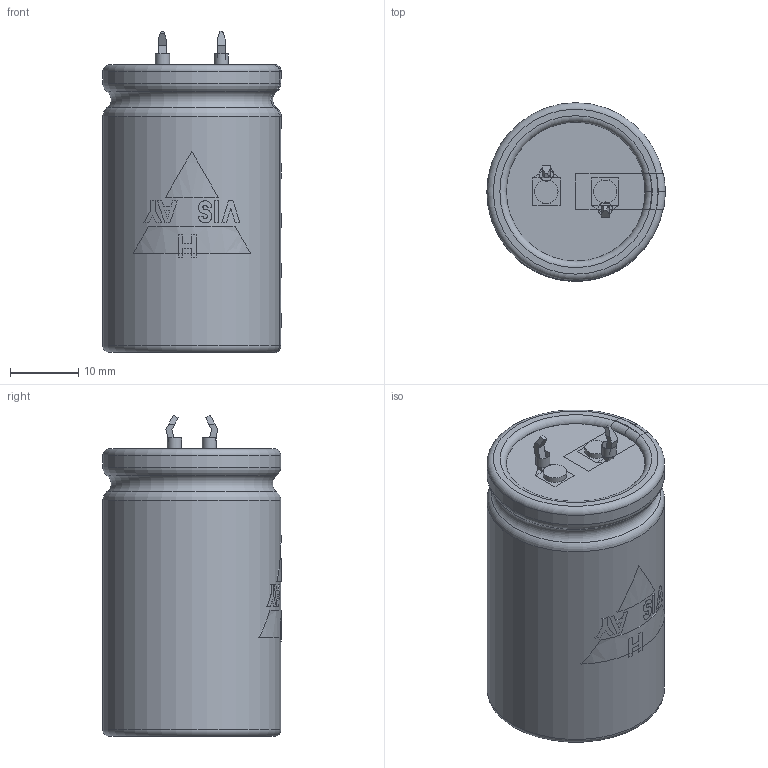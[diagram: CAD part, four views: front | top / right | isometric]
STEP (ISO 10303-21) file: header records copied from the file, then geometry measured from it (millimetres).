
FILE_DESCRIPTION(('FreeCAD Model'),'2;1');
FILE_NAME( 'C:/Users/Gebruiker/Documents/FreeCAD/SnapIn_25x40_2pin_4.0.step', '2020-11-12T20:08:10',('Author'),(''), 'Open CASCADE STEP processor 6.8','FreeCAD','Unknown');
FILE_SCHEMA(('AUTOMOTIVE_DESIGN_CC2 { 1 2 10303 214 -1 1 5 4 }'));
Length unit declared in the file: millimetre
Products named in the file (9): ASSEMBLY; TerminalMin; TerminalPlus; PCBHoles; Disc; BottomInsulation; Can3D; InkMinusBar; InkLogo
Assembly tree (8 placements, depth 2):
  ASSEMBLY
    TerminalMin
    TerminalPlus
    PCBHoles
    Disc
    BottomInsulation
    Can3D
    InkMinusBar
    InkLogo
Bounding box: 26.05 x 26.05 x 46.95 mm (x, y, z)
Volume: 24993.6 mm3; surface area: 10316.4 mm2
Topology: 15 solids, 15 shells, 199 faces, 500 edges, 328 vertices
Faces by surface type: plane 149, cylinder 32, torus 18
Full cylindrical faces by diameter (mm): 2 x2, 2.1 x2, 3.4 x2, 20.3 x1, 20.8 x2, 26 x2
Entity records: 20974 total; most frequent: CARTESIAN_POINT 9834, DIRECTION 1737, ORIENTED_EDGE 1000, PCURVE 1000, DEFINITIONAL_REPRESENTATION 1000, LINE 973, VECTOR 973, EDGE_CURVE 500
